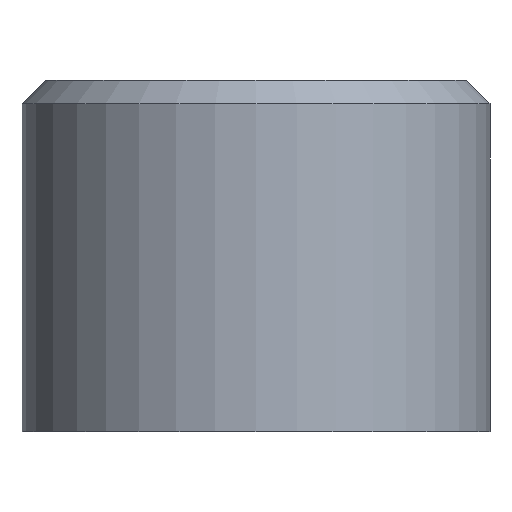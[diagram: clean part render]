
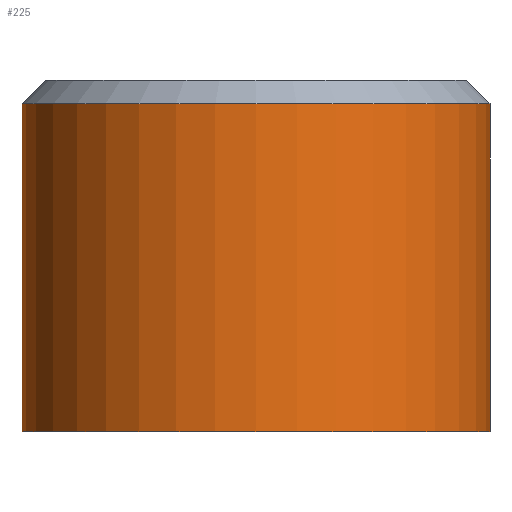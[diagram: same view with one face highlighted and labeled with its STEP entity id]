
A CAD part, front view. The second image highlights one B-rep face of the part: STEP entity #225.
In plain terms, the highlighted cylindrical face has radius 20 mm (diameter 40 mm), a full revolution.
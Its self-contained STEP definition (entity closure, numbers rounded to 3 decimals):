
#27=FACE_BOUND('',#77,.T.);
#34=B_SPLINE_CURVE_WITH_KNOTS('',3,(#384,#385,#386,#387,#388,#389,#390,
#391,#392,#393),.UNSPECIFIED.,.F.,.F.,(4,2,2,2,4),(0.795,0.994,
1.193,1.391,1.59),.UNSPECIFIED.);
#35=B_SPLINE_CURVE_WITH_KNOTS('',3,(#395,#396,#397,#398,#399,#400,#401,
#402,#403,#404,#405,#406,#407,#408,#409,#410,#411,#412,#413),
 .UNSPECIFIED.,.F.,.F.,(4,2,2,2,3,2,2,2,4),(2.385,2.584,
2.783,2.982,3.18,3.379,3.578,
3.777,3.975),.UNSPECIFIED.);
#36=B_SPLINE_CURVE_WITH_KNOTS('',3,(#414,#415,#416,#417,#418,#419,#420,
#421,#422,#423),.UNSPECIFIED.,.F.,.F.,(4,2,2,2,4),(1.59,1.789,
1.988,2.186,2.385),.UNSPECIFIED.);
#40=CYLINDRICAL_SURFACE('',#278,20.);
#58=FACE_OUTER_BOUND('',#76,.T.);
#76=EDGE_LOOP('',(#190,#191,#192,#193,#194));
#77=EDGE_LOOP('',(#195,#196,#197));
#91=LINE('',#450,#100);
#100=VECTOR('',#340,20.);
#110=CIRCLE('',#273,20.);
#112=CIRCLE('',#276,20.);
#113=CIRCLE('',#277,20.);
#120=VERTEX_POINT('',#382);
#121=VERTEX_POINT('',#383);
#122=VERTEX_POINT('',#394);
#127=VERTEX_POINT('',#439);
#129=VERTEX_POINT('',#444);
#130=VERTEX_POINT('',#446);
#139=EDGE_CURVE('',#120,#121,#34,.T.);
#140=EDGE_CURVE('',#122,#120,#35,.T.);
#141=EDGE_CURVE('',#121,#122,#36,.T.);
#149=EDGE_CURVE('',#127,#127,#110,.T.);
#152=EDGE_CURVE('',#129,#130,#112,.T.);
#153=EDGE_CURVE('',#130,#129,#113,.T.);
#154=EDGE_CURVE('',#130,#127,#91,.T.);
#190=ORIENTED_EDGE('',*,*,#152,.F.);
#191=ORIENTED_EDGE('',*,*,#153,.F.);
#192=ORIENTED_EDGE('',*,*,#154,.T.);
#193=ORIENTED_EDGE('',*,*,#149,.F.);
#194=ORIENTED_EDGE('',*,*,#154,.F.);
#195=ORIENTED_EDGE('',*,*,#139,.T.);
#196=ORIENTED_EDGE('',*,*,#141,.T.);
#197=ORIENTED_EDGE('',*,*,#140,.T.);
#225=ADVANCED_FACE('',(#58,#27),#40,.T.);
#273=AXIS2_PLACEMENT_3D('',#440,#327,#328);
#276=AXIS2_PLACEMENT_3D('',#447,#334,#335);
#277=AXIS2_PLACEMENT_3D('',#448,#336,#337);
#278=AXIS2_PLACEMENT_3D('',#449,#338,#339);
#327=DIRECTION('center_axis',(0.,0.,-1.));
#328=DIRECTION('ref_axis',(1.,0.,0.));
#334=DIRECTION('center_axis',(0.,0.,1.));
#335=DIRECTION('ref_axis',(-1.,0.,0.));
#336=DIRECTION('center_axis',(0.,0.,1.));
#337=DIRECTION('ref_axis',(-1.,0.,0.));
#338=DIRECTION('center_axis',(0.,0.,1.));
#339=DIRECTION('ref_axis',(1.,0.,0.));
#340=DIRECTION('',(0.,0.,-1.));
#382=CARTESIAN_POINT('',(0.,20.,25.25));
#383=CARTESIAN_POINT('',(-5.25,19.299,20.));
#384=CARTESIAN_POINT('Ctrl Pts',(0.,20.,25.25));
#385=CARTESIAN_POINT('Ctrl Pts',(-0.663,20.,25.25));
#386=CARTESIAN_POINT('Ctrl Pts',(-1.367,19.964,25.117));
#387=CARTESIAN_POINT('Ctrl Pts',(-2.66,19.833,24.58));
#388=CARTESIAN_POINT('Ctrl Pts',(-3.248,19.74,24.177));
#389=CARTESIAN_POINT('Ctrl Pts',(-4.177,19.565,23.248));
#390=CARTESIAN_POINT('Ctrl Pts',(-4.58,19.47,22.66));
#391=CARTESIAN_POINT('Ctrl Pts',(-5.117,19.336,21.367));
#392=CARTESIAN_POINT('Ctrl Pts',(-5.25,19.299,20.663));
#393=CARTESIAN_POINT('Ctrl Pts',(-5.25,19.299,20.));
#394=CARTESIAN_POINT('',(0.,20.,14.75));
#395=CARTESIAN_POINT('Ctrl Pts',(0.,20.,14.75));
#396=CARTESIAN_POINT('Ctrl Pts',(0.663,20.,14.75));
#397=CARTESIAN_POINT('Ctrl Pts',(1.367,19.964,14.883));
#398=CARTESIAN_POINT('Ctrl Pts',(2.66,19.833,15.42));
#399=CARTESIAN_POINT('Ctrl Pts',(3.248,19.74,15.823));
#400=CARTESIAN_POINT('Ctrl Pts',(4.177,19.565,16.752));
#401=CARTESIAN_POINT('Ctrl Pts',(4.58,19.47,17.34));
#402=CARTESIAN_POINT('Ctrl Pts',(5.117,19.336,18.633));
#403=CARTESIAN_POINT('Ctrl Pts',(5.25,19.299,19.337));
#404=CARTESIAN_POINT('Ctrl Pts',(5.25,19.299,20.));
#405=CARTESIAN_POINT('Ctrl Pts',(5.25,19.299,20.663));
#406=CARTESIAN_POINT('Ctrl Pts',(5.117,19.336,21.367));
#407=CARTESIAN_POINT('Ctrl Pts',(4.58,19.47,22.66));
#408=CARTESIAN_POINT('Ctrl Pts',(4.177,19.565,23.248));
#409=CARTESIAN_POINT('Ctrl Pts',(3.248,19.74,24.177));
#410=CARTESIAN_POINT('Ctrl Pts',(2.66,19.833,24.58));
#411=CARTESIAN_POINT('Ctrl Pts',(1.367,19.964,25.117));
#412=CARTESIAN_POINT('Ctrl Pts',(0.663,20.,25.25));
#413=CARTESIAN_POINT('Ctrl Pts',(0.,20.,25.25));
#414=CARTESIAN_POINT('Ctrl Pts',(-5.25,19.299,20.));
#415=CARTESIAN_POINT('Ctrl Pts',(-5.25,19.299,19.337));
#416=CARTESIAN_POINT('Ctrl Pts',(-5.117,19.336,18.633));
#417=CARTESIAN_POINT('Ctrl Pts',(-4.58,19.47,17.34));
#418=CARTESIAN_POINT('Ctrl Pts',(-4.177,19.565,16.752));
#419=CARTESIAN_POINT('Ctrl Pts',(-3.248,19.74,15.823));
#420=CARTESIAN_POINT('Ctrl Pts',(-2.66,19.833,15.42));
#421=CARTESIAN_POINT('Ctrl Pts',(-1.367,19.964,14.883));
#422=CARTESIAN_POINT('Ctrl Pts',(-0.663,20.,14.75));
#423=CARTESIAN_POINT('Ctrl Pts',(0.,20.,14.75));
#439=CARTESIAN_POINT('',(-20.,0.,0.));
#440=CARTESIAN_POINT('Origin',(0.,0.,0.));
#444=CARTESIAN_POINT('',(20.,0.,28.));
#446=CARTESIAN_POINT('',(-20.,0.,28.));
#447=CARTESIAN_POINT('Origin',(0.,0.,28.));
#448=CARTESIAN_POINT('Origin',(0.,0.,28.));
#449=CARTESIAN_POINT('Origin',(0.,0.,15.));
#450=CARTESIAN_POINT('',(-20.,0.,15.));
